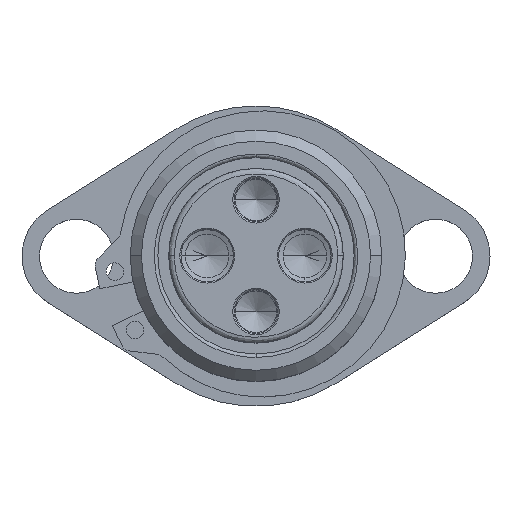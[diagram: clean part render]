
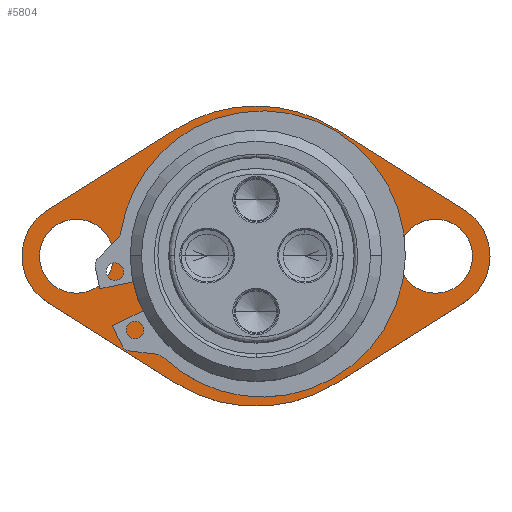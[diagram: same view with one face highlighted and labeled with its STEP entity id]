
A CAD part, top view. The second image highlights one B-rep face of the part: STEP entity #5804.
In plain terms, the highlighted planar face has unit normal (0, 0, 1) as drawn and (0, 1, 0) by its records, which use the part's own axes.
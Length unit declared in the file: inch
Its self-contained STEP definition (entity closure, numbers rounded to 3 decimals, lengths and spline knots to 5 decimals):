
#133 = ORIENTED_EDGE ( 'NONE', *, *, #990, .F. ) ;
#188 = DIRECTION ( 'NONE',  ( 0.846, 0., 0.533 ) ) ;
#211 = EDGE_CURVE ( 'NONE', #4013, #3780, #622, .T. ) ;
#268 = AXIS2_PLACEMENT_3D ( 'NONE', #550, #1398, #3670 ) ;
#433 = CIRCLE ( 'NONE', #268, 0.265 ) ;
#466 = DIRECTION ( 'NONE',  ( 0., 0., -1. ) ) ;
#550 = CARTESIAN_POINT ( 'NONE',  ( -1.285, 0.25, 0. ) ) ;
#559 = AXIS2_PLACEMENT_3D ( 'NONE', #4530, #842, #4968 ) ;
#561 = VERTEX_POINT ( 'NONE', #5358 ) ;
#590 = CIRCLE ( 'NONE', #863, 1.075 ) ;
#594 = CARTESIAN_POINT ( 'NONE',  ( 1.285, 0.25, -0.265 ) ) ;
#622 = CIRCLE ( 'NONE', #5718, 0.39 ) ;
#687 = EDGE_CURVE ( 'NONE', #2769, #1930, #1761, .T. ) ;
#719 = LINE ( 'NONE', #5071, #3872 ) ;
#736 = CARTESIAN_POINT ( 'NONE',  ( 1.285, 0.25, 0. ) ) ;
#761 = DIRECTION ( 'NONE',  ( -0.846, 0., -0.533 ) ) ;
#790 = VECTOR ( 'NONE', #761, 39.37008 ) ;
#842 = DIRECTION ( 'NONE',  ( 0., -1., 0. ) ) ;
#863 = AXIS2_PLACEMENT_3D ( 'NONE', #2582, #5734, #1125 ) ;
#884 = CARTESIAN_POINT ( 'NONE',  ( 0., 0.25, -1.075 ) ) ;
#900 = ORIENTED_EDGE ( 'NONE', *, *, #5016, .F. ) ;
#929 = CIRCLE ( 'NONE', #4332, 1.075 ) ;
#990 = EDGE_CURVE ( 'NONE', #2643, #2062, #4321, .T. ) ;
#1119 = ORIENTED_EDGE ( 'NONE', *, *, #3510, .T. ) ;
#1125 = DIRECTION ( 'NONE',  ( 0., 0., -1. ) ) ;
#1202 = VERTEX_POINT ( 'NONE', #3776 ) ;
#1229 = VECTOR ( 'NONE', #2633, 39.37008 ) ;
#1241 = DIRECTION ( 'NONE',  ( 0., -1., 0. ) ) ;
#1266 = VERTEX_POINT ( 'NONE', #5587 ) ;
#1343 = DIRECTION ( 'NONE',  ( 0., -1., 0. ) ) ;
#1362 = FACE_BOUND ( 'NONE', #3898, .T. ) ;
#1398 = DIRECTION ( 'NONE',  ( 0., -1., 0. ) ) ;
#1408 = VERTEX_POINT ( 'NONE', #1870 ) ;
#1512 = CARTESIAN_POINT ( 'NONE',  ( 1.285, 0.25, 0.265 ) ) ;
#1518 = DIRECTION ( 'NONE',  ( 0., 0., -1. ) ) ;
#1548 = ORIENTED_EDGE ( 'NONE', *, *, #211, .F. ) ;
#1594 = AXIS2_PLACEMENT_3D ( 'NONE', #2976, #4343, #1613 ) ;
#1613 = DIRECTION ( 'NONE',  ( 0., 0., -1. ) ) ;
#1632 = ORIENTED_EDGE ( 'NONE', *, *, #687, .T. ) ;
#1646 = EDGE_CURVE ( 'NONE', #4409, #1202, #3274, .T. ) ;
#1654 = DIRECTION ( 'NONE',  ( 0., -1., 0. ) ) ;
#1718 = DIRECTION ( 'NONE',  ( 0., 0., -1. ) ) ;
#1761 = CIRCLE ( 'NONE', #1768, 0.265 ) ;
#1768 = AXIS2_PLACEMENT_3D ( 'NONE', #5166, #2466, #4687 ) ;
#1776 = DIRECTION ( 'NONE',  ( 0., -1., 0. ) ) ;
#1784 = EDGE_CURVE ( 'NONE', #5326, #1408, #929, .T. ) ;
#1870 = CARTESIAN_POINT ( 'NONE',  ( -0.57305, 0.25, 0.90952 ) ) ;
#1930 = VERTEX_POINT ( 'NONE', #1512 ) ;
#2010 = FACE_BOUND ( 'NONE', #3410, .T. ) ;
#2023 = EDGE_LOOP ( 'NONE', ( #900, #1119, #1548, #3271, #5568, #3214, #4901, #5306, #133 ) ) ;
#2062 = VERTEX_POINT ( 'NONE', #2187 ) ;
#2103 = EDGE_CURVE ( 'NONE', #1266, #3665, #5755, .T. ) ;
#2138 = PLANE ( 'NONE',  #5810 ) ;
#2141 = EDGE_CURVE ( 'NONE', #2489, #3586, #433, .T. ) ;
#2185 = CARTESIAN_POINT ( 'NONE',  ( -1.285, 0.25, 0. ) ) ;
#2187 = CARTESIAN_POINT ( 'NONE',  ( 0.57305, 0.25, -0.90952 ) ) ;
#2218 = ORIENTED_EDGE ( 'NONE', *, *, #2141, .T. ) ;
#2251 = LINE ( 'NONE', #3305, #5776 ) ;
#2280 = CARTESIAN_POINT ( 'NONE',  ( 0., 0.25, 0.9 ) ) ;
#2302 = CARTESIAN_POINT ( 'NONE',  ( -1.4929, 0.25, 0.32997 ) ) ;
#2462 = FACE_OUTER_BOUND ( 'NONE', #2023, .T. ) ;
#2466 = DIRECTION ( 'NONE',  ( 0., -1., 0. ) ) ;
#2489 = VERTEX_POINT ( 'NONE', #4370 ) ;
#2582 = CARTESIAN_POINT ( 'NONE',  ( 0., 0.25, 0. ) ) ;
#2633 = DIRECTION ( 'NONE',  ( -0.846, 0., 0.533 ) ) ;
#2643 = VERTEX_POINT ( 'NONE', #884 ) ;
#2689 = EDGE_CURVE ( 'NONE', #4409, #2062, #4429, .T. ) ;
#2757 = CARTESIAN_POINT ( 'NONE',  ( -1.285, 0.25, 0. ) ) ;
#2769 = VERTEX_POINT ( 'NONE', #594 ) ;
#2862 = DIRECTION ( 'NONE',  ( 0., -1., 0. ) ) ;
#2864 = CARTESIAN_POINT ( 'NONE',  ( -1.4929, 0.25, -0.32997 ) ) ;
#2936 = EDGE_LOOP ( 'NONE', ( #3500, #5792 ) ) ;
#2976 = CARTESIAN_POINT ( 'NONE',  ( 0., 0.25, 0. ) ) ;
#3039 = EDGE_CURVE ( 'NONE', #5326, #1202, #719, .T. ) ;
#3096 = CARTESIAN_POINT ( 'NONE',  ( 1.4929, 0.25, -0.32997 ) ) ;
#3186 = DIRECTION ( 'NONE',  ( 0., 0., -1. ) ) ;
#3214 = ORIENTED_EDGE ( 'NONE', *, *, #3039, .T. ) ;
#3271 = ORIENTED_EDGE ( 'NONE', *, *, #4099, .T. ) ;
#3274 = CIRCLE ( 'NONE', #4153, 0.39 ) ;
#3305 = CARTESIAN_POINT ( 'NONE',  ( -1.4929, 0.25, 0.32997 ) ) ;
#3382 = CIRCLE ( 'NONE', #3808, 0.265 ) ;
#3410 = EDGE_LOOP ( 'NONE', ( #1632, #4627 ) ) ;
#3457 = CIRCLE ( 'NONE', #1594, 0.9 ) ;
#3500 = ORIENTED_EDGE ( 'NONE', *, *, #2103, .T. ) ;
#3510 = EDGE_CURVE ( 'NONE', #561, #3780, #5138, .T. ) ;
#3544 = DIRECTION ( 'NONE',  ( 0., 1., 0. ) ) ;
#3563 = CARTESIAN_POINT ( 'NONE',  ( 0.57305, 0.25, -0.90952 ) ) ;
#3586 = VERTEX_POINT ( 'NONE', #5049 ) ;
#3665 = VERTEX_POINT ( 'NONE', #2280 ) ;
#3670 = DIRECTION ( 'NONE',  ( 0., 0., -1. ) ) ;
#3747 = CARTESIAN_POINT ( 'NONE',  ( 1.285, 0.25, 0. ) ) ;
#3776 = CARTESIAN_POINT ( 'NONE',  ( 1.4929, 0.25, 0.32997 ) ) ;
#3780 = VERTEX_POINT ( 'NONE', #2864 ) ;
#3808 = AXIS2_PLACEMENT_3D ( 'NONE', #3747, #2862, #1518 ) ;
#3872 = VECTOR ( 'NONE', #4186, 39.37008 ) ;
#3874 = DIRECTION ( 'NONE',  ( 0., 0., -1. ) ) ;
#3898 = EDGE_LOOP ( 'NONE', ( #2218, #5554 ) ) ;
#4013 = VERTEX_POINT ( 'NONE', #2302 ) ;
#4099 = EDGE_CURVE ( 'NONE', #4013, #1408, #2251, .T. ) ;
#4134 = EDGE_CURVE ( 'NONE', #1930, #2769, #3382, .T. ) ;
#4153 = AXIS2_PLACEMENT_3D ( 'NONE', #736, #1654, #3874 ) ;
#4186 = DIRECTION ( 'NONE',  ( 0.846, 0., -0.533 ) ) ;
#4321 = CIRCLE ( 'NONE', #5678, 1.075 ) ;
#4332 = AXIS2_PLACEMENT_3D ( 'NONE', #4539, #1776, #466 ) ;
#4343 = DIRECTION ( 'NONE',  ( 0., -1., 0. ) ) ;
#4365 = CIRCLE ( 'NONE', #5732, 0.265 ) ;
#4370 = CARTESIAN_POINT ( 'NONE',  ( -1.285, 0.25, -0.265 ) ) ;
#4409 = VERTEX_POINT ( 'NONE', #3096 ) ;
#4429 = LINE ( 'NONE', #3563, #790 ) ;
#4431 = CARTESIAN_POINT ( 'NONE',  ( -1.4929, 0.25, -0.32997 ) ) ;
#4446 = CARTESIAN_POINT ( 'NONE',  ( -1.285, 0.25, 0. ) ) ;
#4448 = CARTESIAN_POINT ( 'NONE',  ( 0., 0.25, 0. ) ) ;
#4530 = CARTESIAN_POINT ( 'NONE',  ( 0., 0.25, 0. ) ) ;
#4539 = CARTESIAN_POINT ( 'NONE',  ( 0., 0.25, 0. ) ) ;
#4627 = ORIENTED_EDGE ( 'NONE', *, *, #4134, .T. ) ;
#4687 = DIRECTION ( 'NONE',  ( 0., 0., -1. ) ) ;
#4901 = ORIENTED_EDGE ( 'NONE', *, *, #1646, .F. ) ;
#4913 = CARTESIAN_POINT ( 'NONE',  ( 0.57305, 0.25, 0.90952 ) ) ;
#4968 = DIRECTION ( 'NONE',  ( 0., 0., -1. ) ) ;
#5016 = EDGE_CURVE ( 'NONE', #561, #2643, #590, .T. ) ;
#5049 = CARTESIAN_POINT ( 'NONE',  ( -1.285, 0.25, 0.265 ) ) ;
#5071 = CARTESIAN_POINT ( 'NONE',  ( 0.57305, 0.25, 0.90952 ) ) ;
#5095 = EDGE_CURVE ( 'NONE', #3665, #1266, #3457, .T. ) ;
#5138 = LINE ( 'NONE', #4431, #1229 ) ;
#5166 = CARTESIAN_POINT ( 'NONE',  ( 1.285, 0.25, 0. ) ) ;
#5225 = EDGE_CURVE ( 'NONE', #3586, #2489, #4365, .T. ) ;
#5290 = DIRECTION ( 'NONE',  ( 0., -1., 0. ) ) ;
#5306 = ORIENTED_EDGE ( 'NONE', *, *, #2689, .T. ) ;
#5312 = DIRECTION ( 'NONE',  ( 0., 0., -1. ) ) ;
#5326 = VERTEX_POINT ( 'NONE', #4913 ) ;
#5347 = DIRECTION ( 'NONE',  ( 0., 0., 1. ) ) ;
#5358 = CARTESIAN_POINT ( 'NONE',  ( -0.57305, 0.25, -0.90952 ) ) ;
#5554 = ORIENTED_EDGE ( 'NONE', *, *, #5225, .T. ) ;
#5568 = ORIENTED_EDGE ( 'NONE', *, *, #1784, .F. ) ;
#5587 = CARTESIAN_POINT ( 'NONE',  ( 0., 0.25, -0.9 ) ) ;
#5678 = AXIS2_PLACEMENT_3D ( 'NONE', #4448, #5290, #1718 ) ;
#5718 = AXIS2_PLACEMENT_3D ( 'NONE', #2185, #1241, #5312 ) ;
#5732 = AXIS2_PLACEMENT_3D ( 'NONE', #2757, #1343, #3186 ) ;
#5734 = DIRECTION ( 'NONE',  ( 0., -1., 0. ) ) ;
#5755 = CIRCLE ( 'NONE', #559, 0.9 ) ;
#5765 = FACE_BOUND ( 'NONE', #2936, .T. ) ;
#5776 = VECTOR ( 'NONE', #188, 39.37008 ) ;
#5792 = ORIENTED_EDGE ( 'NONE', *, *, #5095, .T. ) ;
#5804 = ADVANCED_FACE ( 'NONE', ( #1362, #2462, #2010, #5765 ), #2138, .T. ) ;
#5810 = AXIS2_PLACEMENT_3D ( 'NONE', #4446, #3544, #5347 ) ;
